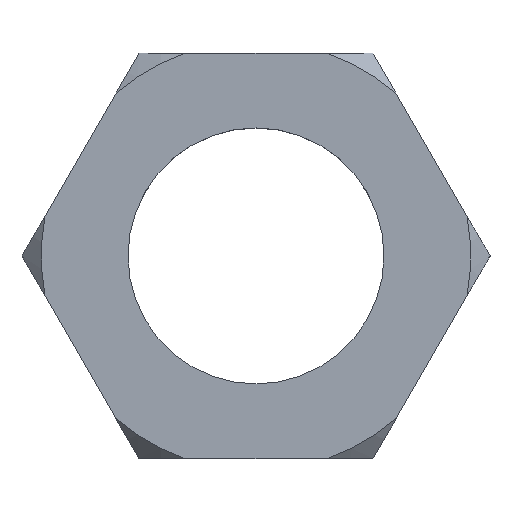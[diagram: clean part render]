
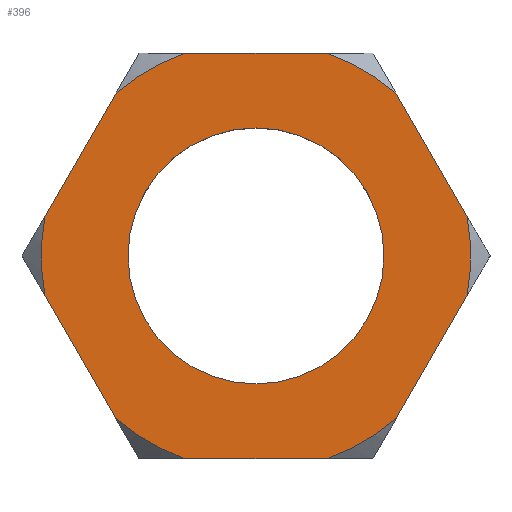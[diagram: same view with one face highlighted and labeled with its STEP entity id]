
A CAD part, top view. The second image highlights one B-rep face of the part: STEP entity #396.
In plain terms, the highlighted planar face has unit normal (0, 0, 1).
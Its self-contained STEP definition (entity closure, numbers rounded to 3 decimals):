
#57=CARTESIAN_POINT('Axis2P3D Location',(0.,0.,78.)) ;
#61=CARTESIAN_POINT('Vertex',(-12.,0.,78.)) ;
#63=CARTESIAN_POINT('Vertex',(12.,0.,78.)) ;
#92=CARTESIAN_POINT('Axis2P3D Location',(0.,0.,78.)) ;
#253=CARTESIAN_POINT('Axis2P3D Location',(0.,0.,78.)) ;
#259=CARTESIAN_POINT('Control Point',(-13.12,15.275,78.)) ;
#260=CARTESIAN_POINT('Control Point',(-12.823,15.53,78.)) ;
#261=CARTESIAN_POINT('Control Point',(-12.52,15.778,78.)) ;
#262=CARTESIAN_POINT('Control Point',(-12.212,16.018,78.)) ;
#263=CARTESIAN_POINT('Control Point',(-11.006,16.909,78.)) ;
#264=CARTESIAN_POINT('Control Point',(-9.721,17.687,78.)) ;
#265=CARTESIAN_POINT('Control Point',(-8.733,18.195,78.)) ;
#266=CARTESIAN_POINT('Control Point',(-7.714,18.633,78.)) ;
#267=CARTESIAN_POINT('Control Point',(-6.669,19.,78.)) ;
#268=CARTESIAN_POINT('Vertex',(-13.12,15.275,78.)) ;
#270=CARTESIAN_POINT('Vertex',(-6.669,19.,78.)) ;
#273=CARTESIAN_POINT('Line Origine',(-16.454,9.5,78.)) ;
#277=CARTESIAN_POINT('Vertex',(-19.789,3.725,78.)) ;
#281=CARTESIAN_POINT('Control Point',(-19.789,-3.725,78.)) ;
#282=CARTESIAN_POINT('Control Point',(-19.827,-3.524,78.)) ;
#283=CARTESIAN_POINT('Control Point',(-19.862,-3.324,78.)) ;
#284=CARTESIAN_POINT('Control Point',(-19.894,-3.123,78.)) ;
#285=CARTESIAN_POINT('Control Point',(-20.115,-1.641,78.)) ;
#286=CARTESIAN_POINT('Control Point',(-20.199,-0.14,78.)) ;
#287=CARTESIAN_POINT('Control Point',(-20.166,1.16,78.)) ;
#288=CARTESIAN_POINT('Control Point',(-20.028,2.452,78.)) ;
#289=CARTESIAN_POINT('Control Point',(-19.789,3.725,78.)) ;
#290=CARTESIAN_POINT('Vertex',(-19.789,-3.725,78.)) ;
#293=CARTESIAN_POINT('Line Origine',(-16.454,-9.5,78.)) ;
#297=CARTESIAN_POINT('Vertex',(-13.12,-15.275,78.)) ;
#301=CARTESIAN_POINT('Control Point',(-13.12,-15.275,78.)) ;
#302=CARTESIAN_POINT('Control Point',(-13.11,-15.284,78.)) ;
#303=CARTESIAN_POINT('Control Point',(-13.099,-15.293,78.)) ;
#304=CARTESIAN_POINT('Control Point',(-13.089,-15.302,78.)) ;
#305=CARTESIAN_POINT('Control Point',(-11.95,-16.275,78.)) ;
#306=CARTESIAN_POINT('Control Point',(-10.72,-17.143,78.)) ;
#307=CARTESIAN_POINT('Control Point',(-9.426,-17.887,78.)) ;
#308=CARTESIAN_POINT('Control Point',(-8.07,-18.508,78.)) ;
#309=CARTESIAN_POINT('Control Point',(-6.669,-19.,78.)) ;
#310=CARTESIAN_POINT('Vertex',(-6.669,-19.,78.)) ;
#313=CARTESIAN_POINT('Line Origine',(0.,-19.,78.)) ;
#317=CARTESIAN_POINT('Vertex',(6.669,-19.,78.)) ;
#321=CARTESIAN_POINT('Control Point',(13.12,-15.275,78.)) ;
#322=CARTESIAN_POINT('Control Point',(12.823,-15.53,78.)) ;
#323=CARTESIAN_POINT('Control Point',(12.52,-15.778,78.)) ;
#324=CARTESIAN_POINT('Control Point',(12.212,-16.018,78.)) ;
#325=CARTESIAN_POINT('Control Point',(11.006,-16.909,78.)) ;
#326=CARTESIAN_POINT('Control Point',(9.721,-17.687,78.)) ;
#327=CARTESIAN_POINT('Control Point',(8.733,-18.195,78.)) ;
#328=CARTESIAN_POINT('Control Point',(7.714,-18.633,78.)) ;
#329=CARTESIAN_POINT('Control Point',(6.669,-19.,78.)) ;
#330=CARTESIAN_POINT('Vertex',(13.12,-15.275,78.)) ;
#333=CARTESIAN_POINT('Line Origine',(16.454,-9.5,78.)) ;
#337=CARTESIAN_POINT('Vertex',(19.789,-3.725,78.)) ;
#341=CARTESIAN_POINT('Control Point',(19.789,3.725,78.)) ;
#342=CARTESIAN_POINT('Control Point',(19.827,3.524,78.)) ;
#343=CARTESIAN_POINT('Control Point',(19.862,3.324,78.)) ;
#344=CARTESIAN_POINT('Control Point',(19.894,3.123,78.)) ;
#345=CARTESIAN_POINT('Control Point',(20.115,1.641,78.)) ;
#346=CARTESIAN_POINT('Control Point',(20.199,0.14,78.)) ;
#347=CARTESIAN_POINT('Control Point',(20.166,-1.16,78.)) ;
#348=CARTESIAN_POINT('Control Point',(20.028,-2.452,78.)) ;
#349=CARTESIAN_POINT('Control Point',(19.789,-3.725,78.)) ;
#350=CARTESIAN_POINT('Vertex',(19.789,3.725,78.)) ;
#353=CARTESIAN_POINT('Line Origine',(16.454,9.5,78.)) ;
#357=CARTESIAN_POINT('Vertex',(13.12,15.275,78.)) ;
#361=CARTESIAN_POINT('Control Point',(13.12,15.275,78.)) ;
#362=CARTESIAN_POINT('Control Point',(13.11,15.284,78.)) ;
#363=CARTESIAN_POINT('Control Point',(13.099,15.293,78.)) ;
#364=CARTESIAN_POINT('Control Point',(13.089,15.302,78.)) ;
#365=CARTESIAN_POINT('Control Point',(11.95,16.275,78.)) ;
#366=CARTESIAN_POINT('Control Point',(10.72,17.143,78.)) ;
#367=CARTESIAN_POINT('Control Point',(9.426,17.887,78.)) ;
#368=CARTESIAN_POINT('Control Point',(8.07,18.508,78.)) ;
#369=CARTESIAN_POINT('Control Point',(6.669,19.,78.)) ;
#370=CARTESIAN_POINT('Vertex',(6.669,19.,78.)) ;
#373=CARTESIAN_POINT('Line Origine',(0.,19.,78.)) ;
#58=DIRECTION('Axis2P3D Direction',(0.,0.,1.)) ;
#93=DIRECTION('Axis2P3D Direction',(0.,0.,1.)) ;
#254=DIRECTION('Axis2P3D Direction',(0.,0.,1.)) ;
#255=DIRECTION('Axis2P3D XDirection',(1.,0.,0.)) ;
#274=DIRECTION('Vector Direction',(-0.5,-0.866,0.)) ;
#294=DIRECTION('Vector Direction',(0.5,-0.866,0.)) ;
#314=DIRECTION('Vector Direction',(1.,0.,0.)) ;
#334=DIRECTION('Vector Direction',(0.5,0.866,0.)) ;
#354=DIRECTION('Vector Direction',(-0.5,0.866,0.)) ;
#374=DIRECTION('Vector Direction',(-1.,0.,0.)) ;
#59=AXIS2_PLACEMENT_3D('Circle Axis2P3D',#57,#58,$) ;
#94=AXIS2_PLACEMENT_3D('Circle Axis2P3D',#92,#93,$) ;
#256=AXIS2_PLACEMENT_3D('Plane Axis2P3D',#253,#254,#255) ;
#379=ORIENTED_EDGE('',*,*,#272,.F.) ;
#380=ORIENTED_EDGE('',*,*,#279,.T.) ;
#381=ORIENTED_EDGE('',*,*,#292,.F.) ;
#382=ORIENTED_EDGE('',*,*,#299,.T.) ;
#383=ORIENTED_EDGE('',*,*,#312,.T.) ;
#384=ORIENTED_EDGE('',*,*,#319,.T.) ;
#385=ORIENTED_EDGE('',*,*,#332,.F.) ;
#386=ORIENTED_EDGE('',*,*,#339,.T.) ;
#387=ORIENTED_EDGE('',*,*,#352,.F.) ;
#388=ORIENTED_EDGE('',*,*,#359,.T.) ;
#389=ORIENTED_EDGE('',*,*,#372,.T.) ;
#390=ORIENTED_EDGE('',*,*,#377,.T.) ;
#393=ORIENTED_EDGE('',*,*,#65,.F.) ;
#394=ORIENTED_EDGE('',*,*,#96,.F.) ;
#395=FACE_BOUND('',#392,.T.) ;
#275=VECTOR('Line Direction',#274,1.) ;
#295=VECTOR('Line Direction',#294,1.) ;
#315=VECTOR('Line Direction',#314,1.) ;
#335=VECTOR('Line Direction',#334,1.) ;
#355=VECTOR('Line Direction',#354,1.) ;
#375=VECTOR('Line Direction',#374,1.) ;
#396=ADVANCED_FACE('',(#391,#395),#257,.T.) ;
#258=B_SPLINE_CURVE_WITH_KNOTS('',5,(#259,#260,#261,#262,#263,#264,#265,#266,#267),.UNSPECIFIED.,.F.,.U.,(6,3,6),(32.284,34.587,41.109),.UNSPECIFIED.) ;
#280=B_SPLINE_CURVE_WITH_KNOTS('',5,(#281,#282,#283,#284,#285,#286,#287,#288,#289),.UNSPECIFIED.,.F.,.U.,(6,3,6),(7.447,8.646,16.271),.UNSPECIFIED.) ;
#300=B_SPLINE_CURVE_WITH_KNOTS('',5,(#301,#302,#303,#304,#305,#306,#307,#308,#309),.UNSPECIFIED.,.F.,.U.,(6,3,6),(8.566,8.646,17.391),.UNSPECIFIED.) ;
#320=B_SPLINE_CURVE_WITH_KNOTS('',5,(#321,#322,#323,#324,#325,#326,#327,#328,#329),.UNSPECIFIED.,.F.,.U.,(6,3,6),(32.284,34.587,41.109),.UNSPECIFIED.) ;
#340=B_SPLINE_CURVE_WITH_KNOTS('',5,(#341,#342,#343,#344,#345,#346,#347,#348,#349),.UNSPECIFIED.,.F.,.U.,(6,3,6),(7.447,8.646,16.271),.UNSPECIFIED.) ;
#360=B_SPLINE_CURVE_WITH_KNOTS('',5,(#361,#362,#363,#364,#365,#366,#367,#368,#369),.UNSPECIFIED.,.F.,.U.,(6,3,6),(8.566,8.646,17.391),.UNSPECIFIED.) ;
#60=CIRCLE('generated circle',#59,12.) ;
#95=CIRCLE('generated circle',#94,12.) ;
#65=EDGE_CURVE('',#62,#64,#60,.T.) ;
#96=EDGE_CURVE('',#64,#62,#95,.T.) ;
#272=EDGE_CURVE('',#269,#271,#258,.T.) ;
#279=EDGE_CURVE('',#269,#278,#276,.T.) ;
#292=EDGE_CURVE('',#291,#278,#280,.T.) ;
#299=EDGE_CURVE('',#291,#298,#296,.T.) ;
#312=EDGE_CURVE('',#298,#311,#300,.T.) ;
#319=EDGE_CURVE('',#311,#318,#316,.T.) ;
#332=EDGE_CURVE('',#331,#318,#320,.T.) ;
#339=EDGE_CURVE('',#331,#338,#336,.T.) ;
#352=EDGE_CURVE('',#351,#338,#340,.T.) ;
#359=EDGE_CURVE('',#351,#358,#356,.T.) ;
#372=EDGE_CURVE('',#358,#371,#360,.T.) ;
#377=EDGE_CURVE('',#371,#271,#376,.T.) ;
#378=EDGE_LOOP('',(#379,#380,#381,#382,#383,#384,#385,#386,#387,#388,#389,#390)) ;
#392=EDGE_LOOP('',(#393,#394)) ;
#391=FACE_OUTER_BOUND('',#378,.T.) ;
#276=LINE('Line',#273,#275) ;
#296=LINE('Line',#293,#295) ;
#316=LINE('Line',#313,#315) ;
#336=LINE('Line',#333,#335) ;
#356=LINE('Line',#353,#355) ;
#376=LINE('Line',#373,#375) ;
#257=PLANE('Plane',#256) ;
#62=VERTEX_POINT('',#61) ;
#64=VERTEX_POINT('',#63) ;
#269=VERTEX_POINT('',#268) ;
#271=VERTEX_POINT('',#270) ;
#278=VERTEX_POINT('',#277) ;
#291=VERTEX_POINT('',#290) ;
#298=VERTEX_POINT('',#297) ;
#311=VERTEX_POINT('',#310) ;
#318=VERTEX_POINT('',#317) ;
#331=VERTEX_POINT('',#330) ;
#338=VERTEX_POINT('',#337) ;
#351=VERTEX_POINT('',#350) ;
#358=VERTEX_POINT('',#357) ;
#371=VERTEX_POINT('',#370) ;
